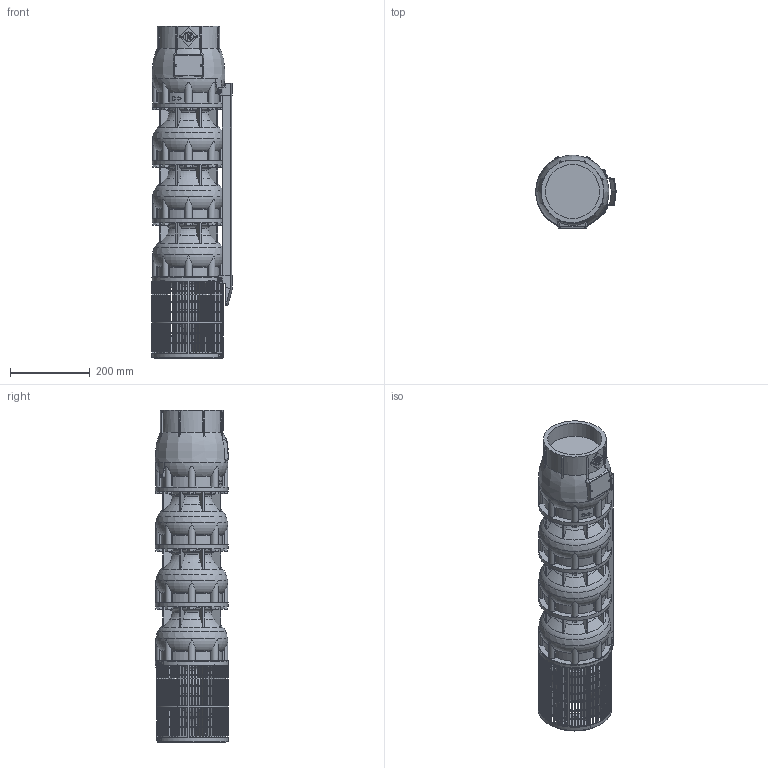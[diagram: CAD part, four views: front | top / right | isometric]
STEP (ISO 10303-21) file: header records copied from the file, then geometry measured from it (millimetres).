
FILE_DESCRIPTION(/* description */ ('Unknown'),/* implementation_level */ '2;1');
FILE_NAME(/* name */ 'VSI134-3_WR_M6-50_DLE',/* time_stamp */ '2023-09-14T13:18:13+02:00',/* author */ ('Unknown'),/* organization */ ('Unknown'),/* preprocessor_version */ 'ST-DEVELOPER v18.102',/* originating_system */ 'Solid Edge',/* authorisation */ 'Unknown');
FILE_SCHEMA (('AUTOMOTIVE_DESIGN {1 0 10303 214 3 1 1}'));
Products named in the file (11): VSI134-3_WR_M6-50_DLE; VSI134_testata; VSI134_diffusore; VSI134_supporto_8×6; VSI134_filtro_A; VSI134_filtro_B; VSI134_terminale_top_copricavo_basso; VSI134_terminale_bottom_copricavo_basso; LOW 134-3; M5X8_UNI7687; VSI134_giunto_8×6
Assembly tree (21 placements, depth 2):
  VSI134-3_WR_M6-50_DLE
    VSI134_testata
    VSI134_diffusore  x3
    VSI134_supporto_8×6
    VSI134_filtro_A
    VSI134_filtro_B
    VSI134_terminale_top_copricavo_basso
    VSI134_terminale_bottom_copricavo_basso
    LOW 134-3
    M5X8_UNI7687  x10
    VSI134_giunto_8×6
Bounding box: 201.57 x 183.52 x 832 mm (x, y, z)
Volume: 13445477.3 mm3; surface area: 1186648.9 mm2
Topology: 60 solids, 62 shells, 2994 faces, 8452 edges, 5632 vertices
Faces by surface type: plane 2310, cylinder 405, torus 183, cone 53, bspline 31, sphere 12
Full cylindrical faces by diameter (mm): 2.4 x2, 3 x2, 4.2 x16, 5 x10, 5.5 x8, 15 x4, 26 x1, 44 x1, 59 x1, 74 x1, 76.2 x1, 98 x1, 135.472 x1, 157 x1, 182 x4
Entity records: 83717 total; most frequent: CARTESIAN_POINT 18041, ORIENTED_EDGE 13738, DIRECTION 13164, EDGE_CURVE 6869, VERTEX_POINT 4627, AXIS2_PLACEMENT_3D 4489, LINE 4186, VECTOR 4186
